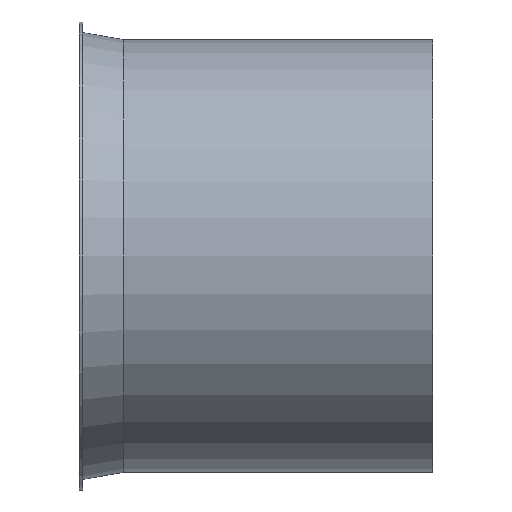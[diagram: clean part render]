
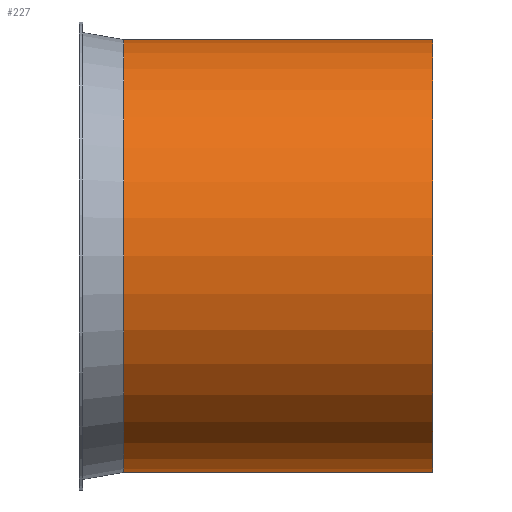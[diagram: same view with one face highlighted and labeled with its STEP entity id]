
A CAD part, front view. The second image highlights one B-rep face of the part: STEP entity #227.
In plain terms, the highlighted cylindrical face has radius 122.5 mm (diameter 245 mm), a full revolution.
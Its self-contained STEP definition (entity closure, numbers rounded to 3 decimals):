
#132=CARTESIAN_POINT('',(-2.081,46.834,0.0));
#133=VERTEX_POINT('',#132);
#134=CARTESIAN_POINT('',(-2.081,169.334,0.0));
#135=DIRECTION('',(-1.0,0.0,0.0));
#136=DIRECTION('',(0.0,-1.0,0.0));
#137=AXIS2_PLACEMENT_3D('',#134,#135,#136);
#138=CIRCLE('',#137,122.5);
#139=EDGE_CURVE('',#133,#133,#138,.T.);
#201=CARTESIAN_POINT('',(172.919,46.834,0.0));
#202=VERTEX_POINT('',#201);
#203=CARTESIAN_POINT('',(172.919,169.334,0.0));
#204=DIRECTION('',(-1.0,0.0,0.0));
#205=DIRECTION('',(0.0,-1.0,0.0));
#206=AXIS2_PLACEMENT_3D('',#203,#204,#205);
#207=CIRCLE('',#206,122.5);
#208=EDGE_CURVE('',#202,#202,#207,.T.);
#216=CARTESIAN_POINT('',(85.419,169.334,0.0));
#217=DIRECTION('',(-1.0,0.0,0.0));
#218=DIRECTION('',(0.0,-1.0,0.0));
#219=AXIS2_PLACEMENT_3D('',#216,#217,#218);
#220=CYLINDRICAL_SURFACE('',#219,122.5);
#221=ORIENTED_EDGE('',*,*,#139,.F.);
#222=EDGE_LOOP('',(#221));
#223=FACE_OUTER_BOUND('',#222,.T.);
#224=ORIENTED_EDGE('',*,*,#208,.T.);
#225=EDGE_LOOP('',(#224));
#226=FACE_BOUND('',#225,.T.);
#227=ADVANCED_FACE('',(#223,#226),#220,.T.);
